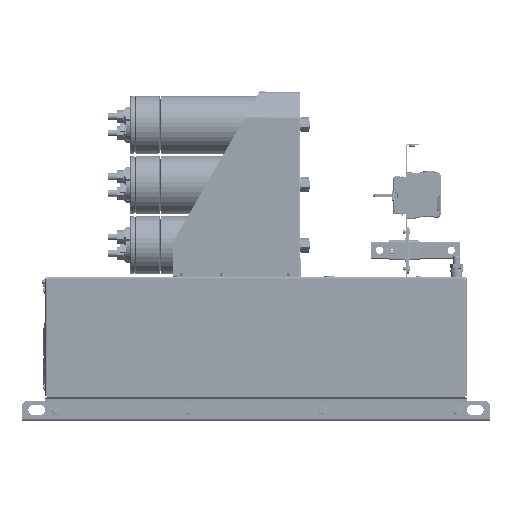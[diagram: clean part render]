
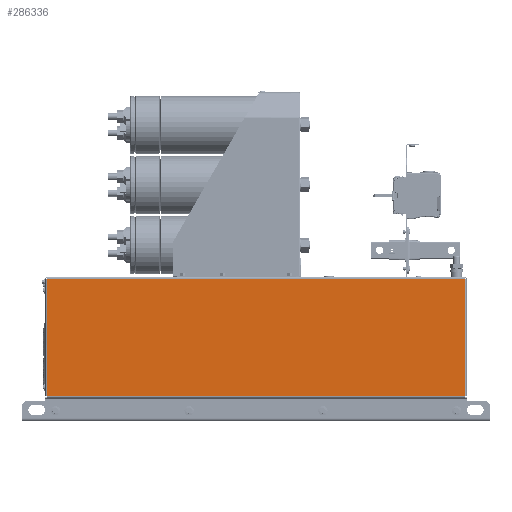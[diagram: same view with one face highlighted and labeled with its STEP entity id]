
A CAD part, left-side view. The second image highlights one B-rep face of the part: STEP entity #286336.
In plain terms, the highlighted planar face has unit normal (-1, 0, 0).
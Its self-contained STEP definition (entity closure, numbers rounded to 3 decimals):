
#13943=PLANE('',#306026);
#24613=FACE_OUTER_BOUND('',#40698,.T.);
#40698=EDGE_LOOP('',(#212622,#212623,#212624,#212625));
#63120=LINE('',#483042,#87707);
#63200=LINE('',#483276,#87787);
#63258=LINE('',#483667,#87845);
#63259=LINE('',#483668,#87846);
#87707=VECTOR('',#355873,10.);
#87787=VECTOR('',#356049,10.);
#87845=VECTOR('',#356197,10.);
#87846=VECTOR('',#356198,10.);
#122333=VERTEX_POINT('',#483035);
#122336=VERTEX_POINT('',#483040);
#122415=VERTEX_POINT('',#483262);
#122484=VERTEX_POINT('',#483666);
#154288=EDGE_CURVE('',#122333,#122336,#63120,.T.);
#154393=EDGE_CURVE('',#122336,#122415,#63200,.T.);
#154493=EDGE_CURVE('',#122333,#122484,#63258,.T.);
#154494=EDGE_CURVE('',#122484,#122415,#63259,.T.);
#212622=ORIENTED_EDGE('',*,*,#154493,.F.);
#212623=ORIENTED_EDGE('',*,*,#154288,.T.);
#212624=ORIENTED_EDGE('',*,*,#154393,.T.);
#212625=ORIENTED_EDGE('',*,*,#154494,.F.);
#286336=ADVANCED_FACE('',(#24613),#13943,.F.);
#306026=AXIS2_PLACEMENT_3D('',#483665,#356195,#356196);
#355873=DIRECTION('',(0.,1.,0.));
#356049=DIRECTION('',(0.,0.,-1.));
#356195=DIRECTION('center_axis',(1.,0.,0.));
#356196=DIRECTION('ref_axis',(0.,0.,
-1.));
#356197=DIRECTION('',(0.,0.,-1.));
#356198=DIRECTION('',(0.,1.,0.));
#483035=CARTESIAN_POINT('',(-225.,-312.7,212.7));
#483040=CARTESIAN_POINT('',(-225.,312.7,212.7));
#483042=CARTESIAN_POINT('',(-225.,315.,212.7));
#483262=CARTESIAN_POINT('',(-225.,312.7,36.353));
#483276=CARTESIAN_POINT('',(-225.,312.7,116.05));
#483665=CARTESIAN_POINT('Origin',(-225.,-315.,35.4));
#483666=CARTESIAN_POINT('',(-225.,-312.7,36.353));
#483667=CARTESIAN_POINT('',(-225.,-312.7,196.71));
#483668=CARTESIAN_POINT('',(-225.,-315.,36.353));
